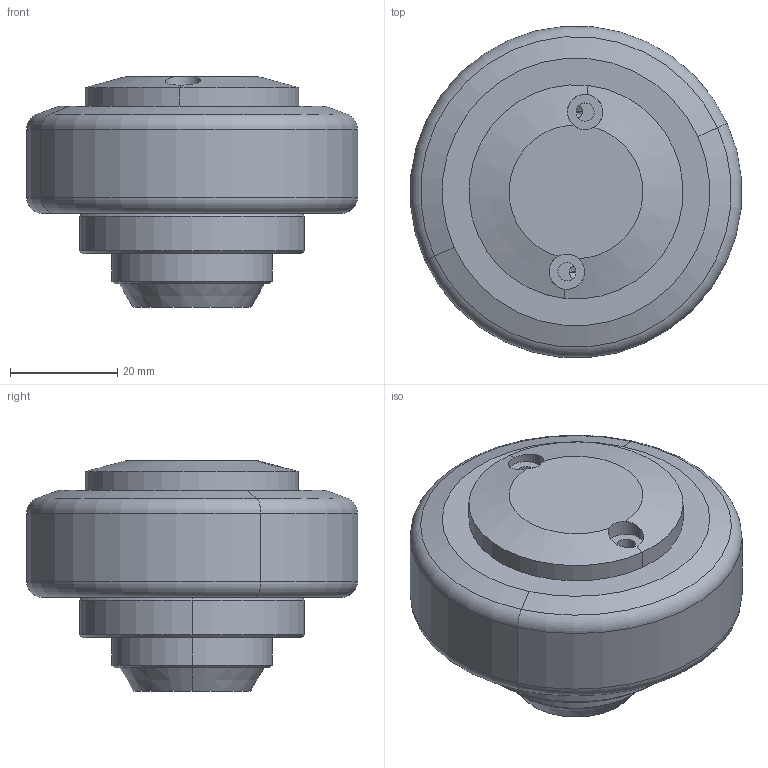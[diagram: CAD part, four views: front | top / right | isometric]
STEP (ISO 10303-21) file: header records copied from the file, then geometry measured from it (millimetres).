
FILE_DESCRIPTION (( 'STEP AP214' ), '1' );
FILE_NAME ('4.0072 AP.STEP', '2014-11-22T14:58:42', ( 'usuario' ), ( 'Hewlett-Packard Company' ), 'SwSTEP 2.0', 'SolidWorks 2017', '' );
FILE_SCHEMA (( 'AUTOMOTIVE_DESIGN' ));
Length unit declared in the file: millimetre
Products named in the file (4): AXIAL PET-AL 4.0072_Predeterminado; 4.0072 RADIAL ESTANDAR_Predeterminado; 401-0072 EJE; 4.0072 AP
Assembly tree (3 placements, depth 2):
  4.0072 AP
    401-0072 EJE
    4.0072 RADIAL ESTANDAR_Predeterminado
    AXIAL PET-AL 4.0072_Predeterminado
Bounding box: 61.82 x 61.82 x 43 mm (x, y, z)
Volume: 79029.1 mm3; surface area: 22055.6 mm2
Topology: 3 solids, 3 shells, 64 faces, 140 edges, 83 vertices
Faces by surface type: cylinder 28, cone 20, plane 12, torus 4
Entity records: 2022 total; most frequent: CARTESIAN_POINT 391, DIRECTION 344, ORIENTED_EDGE 268, AXIS2_PLACEMENT_3D 148, EDGE_CURVE 134, VERTEX_POINT 83, CIRCLE 78, EDGE_LOOP 77
